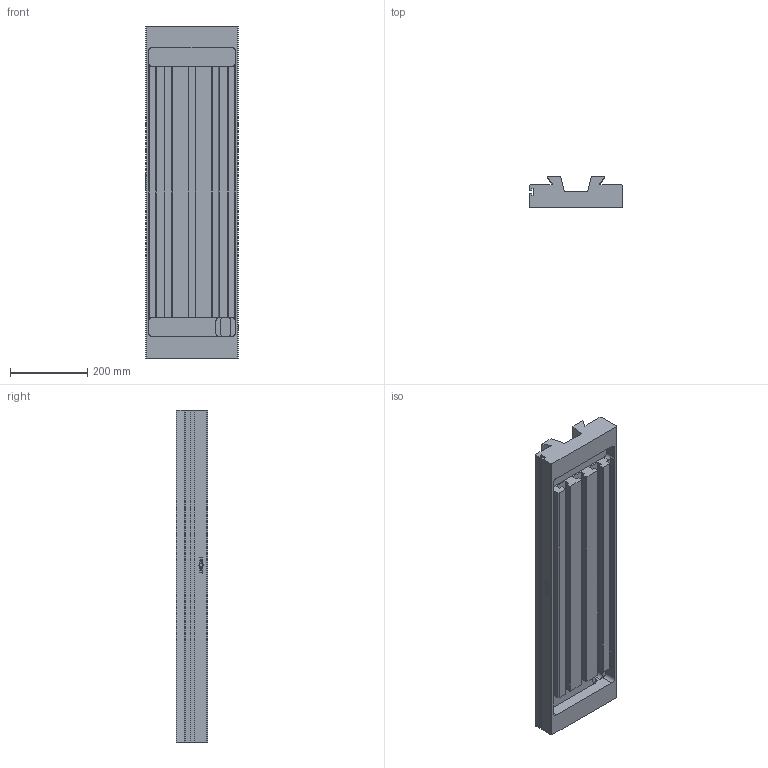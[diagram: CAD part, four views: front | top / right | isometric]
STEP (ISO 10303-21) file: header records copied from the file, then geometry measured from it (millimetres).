
FILE_DESCRIPTION (( 'STEP AP214' ), '1' );
FILE_NAME ('1100 X-AXIS SADDLE 860mm long.STEP', '2014-01-28T19:56:20', ( '' ), ( '' ), 'SwSTEP 2.0', 'SolidWorks 2012', '' );
FILE_SCHEMA (( 'AUTOMOTIVE_DESIGN' ));
Length unit declared in the file: millimetre
Products named in the file (1): 1100 X-AXIS SADDLE 860mm long
Bounding box: 240 x 81 x 860 mm (x, y, z)
Volume: 10089172.9 mm3; surface area: 918285.3 mm2
Topology: 1 solids, 1 shells, 173 faces, 482 edges, 320 vertices
Faces by surface type: plane 142, cylinder 16, bspline 13, cone 2
Entity records: 6529 total; most frequent: CARTESIAN_POINT 2033, ORIENTED_EDGE 964, DIRECTION 810, EDGE_CURVE 482, VECTOR 416, LINE 416, VERTEX_POINT 320, AXIS2_PLACEMENT_3D 197
